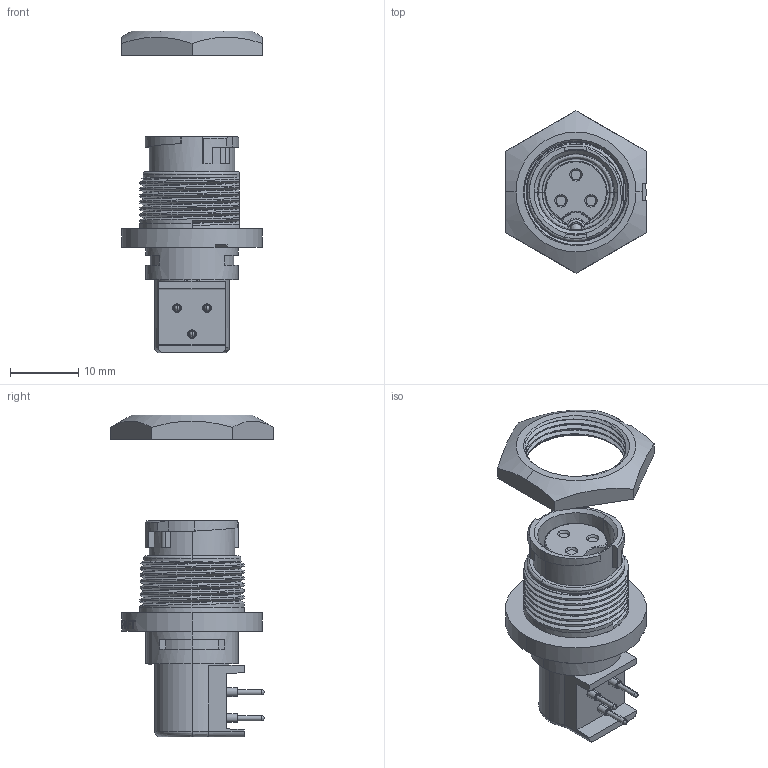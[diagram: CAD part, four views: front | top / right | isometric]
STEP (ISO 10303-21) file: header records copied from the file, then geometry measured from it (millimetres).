
FILE_DESCRIPTION (( 'STEP AP214' ), '1' );
FILE_NAME ('EN3P3FRAPC.STEP', '2014-07-01T16:22:30', ( '' ), ( '' ), 'SwSTEP 2.0', 'SolidWorks 2014', '' );
FILE_SCHEMA (( 'AUTOMOTIVE_DESIGN' ));
Length unit declared in the file: inch
Products named in the file (1): EN3P3FRAPC
Bounding box: 20.64 x 23.83 x 47.22 mm (x, y, z)
Volume: 5016.6 mm3; surface area: 3867.4 mm2
Topology: 2 solids, 2 shells, 462 faces, 1249 edges, 811 vertices
Faces by surface type: plane 159, bspline 151, cylinder 122, cone 30
Entity records: 32326 total; most frequent: CARTESIAN_POINT 21436, ORIENTED_EDGE 2484, DIRECTION 1739, EDGE_CURVE 1242, VERTEX_POINT 811, AXIS2_PLACEMENT_3D 612, LINE 515, VECTOR 515
